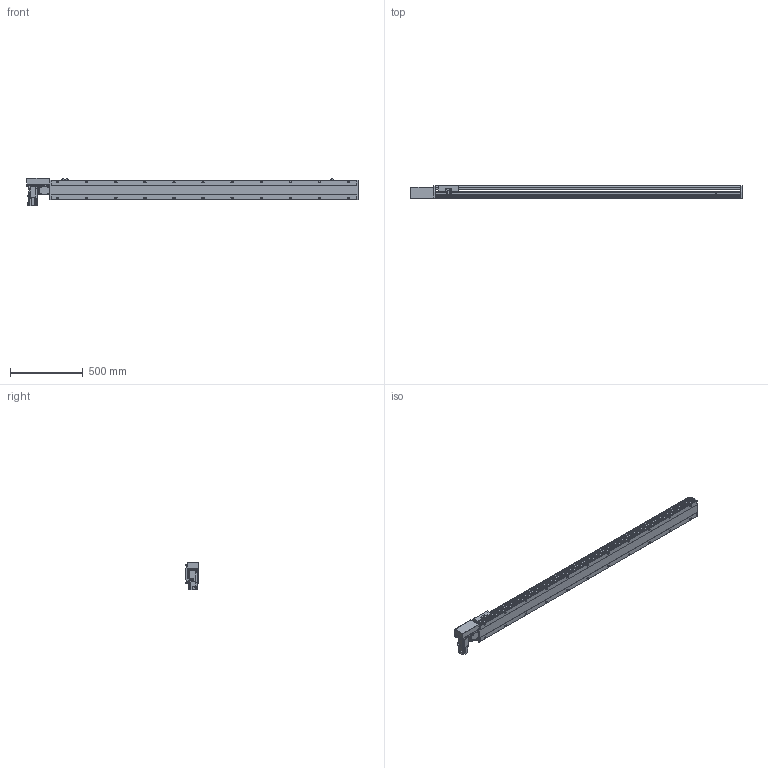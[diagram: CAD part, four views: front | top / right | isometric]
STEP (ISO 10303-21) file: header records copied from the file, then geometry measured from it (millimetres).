
FILE_DESCRIPTION(/* description */ ('STEP AP214'),/* implementation_level */ '2;1');
FILE_NAME(/* name */ 'PBS140S-P40-S1850-R-T40-C1-N(0)',/* time_stamp */ '2022-06-09T02:18:15+02:00',/* author */ ('License CC BY-ND 4.0'),/* organization */ ('CADENAS'),/* preprocessor_version */ 'ST-DEVELOPER v18.102',/* originating_system */ 'PARTsolutions',/* authorisation */ ' ');
FILE_SCHEMA (('AUTOMOTIVE_DESIGN {1 0 10303 214 3 1 1}'));
Length unit declared in the file: millimetre
Products named in the file (7): PBS140S-P40-S1850-R-T40-C1-N(0); PBS140S_sensor; PBS140S_plant; PBS140S_sliser; T40-p1; PBS140ST-R_motors; PBS140S-S1850()_body
Assembly tree (8 placements, depth 2):
  PBS140S-P40-S1850-R-T40-C1-N(0)
    PBS140S_sensor  x3
    PBS140S_plant
    PBS140S_sliser
    T40-p1
    PBS140ST-R_motors
    PBS140S-S1850()_body
Bounding box: 2283 x 93 x 189.7 mm (x, y, z)
Volume: 10911535.3 mm3; surface area: 1851906.8 mm2
Topology: 8 solids, 8 shells, 1147 faces, 3031 edges, 1983 vertices
Faces by surface type: plane 720, cylinder 369, cone 48, sphere 8, torus 2
Full cylindrical faces by diameter (mm): 3.242 x4, 4 x2, 4.134 x4, 4.4 x8, 4.5 x2, 4.8 x4, 4.917 x30, 5.5 x7, 6 x2, 7 x24, 7.5 x8, 8 x12, 8.5 x4, 10.5 x22, 14 x1, 30 x2, 50 x2
Entity records: 32870 total; most frequent: CARTESIAN_POINT 6152, DIRECTION 5558, ORIENTED_EDGE 5242, EDGE_CURVE 2621, AXIS2_PLACEMENT_3D 1949, VERTEX_POINT 1825, LINE 1660, VECTOR 1660
